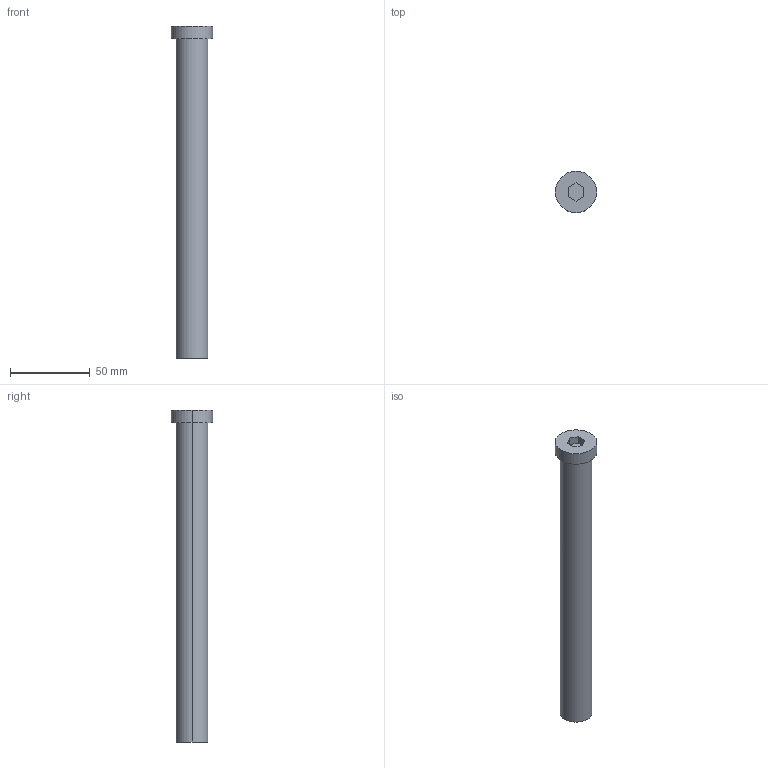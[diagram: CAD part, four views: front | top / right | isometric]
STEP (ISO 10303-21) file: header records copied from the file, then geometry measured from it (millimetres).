
FILE_DESCRIPTION (( 'STEP AP214' ), '1' );
FILE_NAME ('BruyRubio_TGH__20_x_200_-_M-14.STEP', '2019-12-22T23:40:28', ( '' ), ( '' ), 'SwSTEP 2.0', 'SolidWorks 2017', '' );
FILE_SCHEMA (( 'AUTOMOTIVE_DESIGN' ));
Length unit declared in the file: millimetre
Products named in the file (1): BruyRubio_TGH__20_x_200_-_M-14
Bounding box: 26 x 26 x 208 mm (x, y, z)
Volume: 63153.2 mm3; surface area: 17826.9 mm2
Topology: 2 solids, 2 shells, 27 faces, 58 edges, 37 vertices
Faces by surface type: plane 13, cylinder 12, cone 2
Entity records: 1070 total; most frequent: DIRECTION 136, CARTESIAN_POINT 121, ORIENTED_EDGE 112, EDGE_CURVE 56, AXIS2_PLACEMENT_3D 52, VERTEX_POINT 37, EDGE_LOOP 33, VECTOR 32
